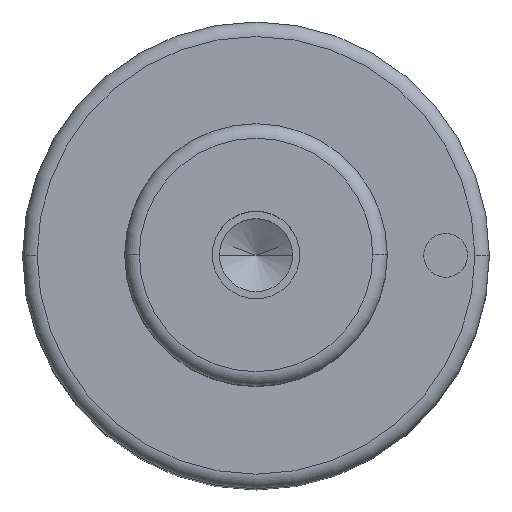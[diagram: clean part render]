
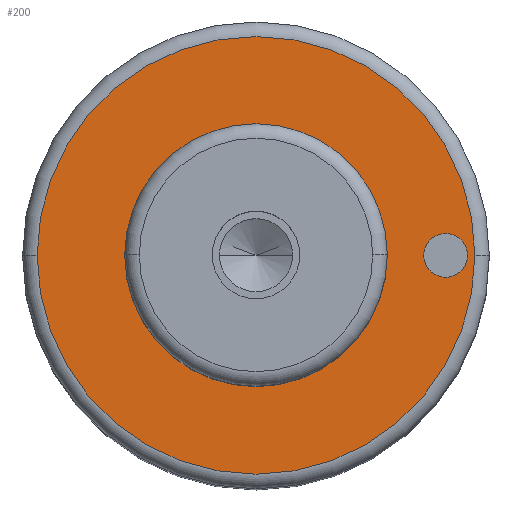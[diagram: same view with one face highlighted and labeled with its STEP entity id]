
A CAD part, top view. The second image highlights one B-rep face of the part: STEP entity #200.
In plain terms, the highlighted planar face has unit normal (0, 0, 1).
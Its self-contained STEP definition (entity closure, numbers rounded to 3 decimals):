
#99=PLANE('',#596);
#107=FACE_BOUND('',#265,.T.);
#108=FACE_BOUND('',#266,.T.);
#109=FACE_BOUND('',#267,.T.);
#200=ADVANCED_FACE('',(#107,#108,#109),#99,.T.);
#265=EDGE_LOOP('',(#359,#360));
#266=EDGE_LOOP('',(#361,#362));
#267=EDGE_LOOP('',(#363,#364));
#359=ORIENTED_EDGE('',*,*,#460,.F.);
#360=ORIENTED_EDGE('',*,*,#461,.F.);
#361=ORIENTED_EDGE('',*,*,#485,.F.);
#362=ORIENTED_EDGE('',*,*,#486,.F.);
#363=ORIENTED_EDGE('',*,*,#456,.T.);
#364=ORIENTED_EDGE('',*,*,#454,.T.);
#411=VERTEX_POINT('',#808);
#412=VERTEX_POINT('',#810);
#413=VERTEX_POINT('',#816);
#416=VERTEX_POINT('',#821);
#430=VERTEX_POINT('',#875);
#431=VERTEX_POINT('',#876);
#454=EDGE_CURVE('',#412,#411,#513,.T.);
#456=EDGE_CURVE('',#411,#412,#514,.T.);
#460=EDGE_CURVE('',#416,#413,#518,.T.);
#461=EDGE_CURVE('',#413,#416,#519,.T.);
#485=EDGE_CURVE('',#430,#431,#533,.T.);
#486=EDGE_CURVE('',#431,#430,#534,.T.);
#513=CIRCLE('',#558,9.);
#514=CIRCLE('',#560,9.);
#518=CIRCLE('',#565,15.);
#519=CIRCLE('',#567,15.);
#533=CIRCLE('',#594,1.5);
#534=CIRCLE('',#595,1.5);
#558=AXIS2_PLACEMENT_3D('',#809,#647,#648);
#560=AXIS2_PLACEMENT_3D('',#813,#652,#653);
#565=AXIS2_PLACEMENT_3D('',#822,#662,#663);
#567=AXIS2_PLACEMENT_3D('',#824,#666,#667);
#594=AXIS2_PLACEMENT_3D('',#874,#730,#731);
#595=AXIS2_PLACEMENT_3D('',#877,#732,#733);
#596=AXIS2_PLACEMENT_3D('',#878,#734,#735);
#647=DIRECTION('',(0.,0.,-1.));
#648=DIRECTION('',(0.,1.,0.));
#652=DIRECTION('',(0.,0.,-1.));
#653=DIRECTION('',(0.,-1.,0.));
#662=DIRECTION('',(0.,0.,-1.));
#663=DIRECTION('',(0.,1.,0.));
#666=DIRECTION('',(0.,0.,-1.));
#667=DIRECTION('',(0.,-1.,0.));
#730=DIRECTION('',(0.,0.,1.));
#731=DIRECTION('',(0.,1.,0.));
#732=DIRECTION('',(0.,0.,1.));
#733=DIRECTION('',(0.,-1.,0.));
#734=DIRECTION('',(0.,0.,1.));
#735=DIRECTION('',(0.,-1.,0.));
#808=CARTESIAN_POINT('',(-9.,0.,49.));
#809=CARTESIAN_POINT('',(0.,0.,49.));
#810=CARTESIAN_POINT('',(9.,0.,49.));
#813=CARTESIAN_POINT('',(0.,0.,49.));
#816=CARTESIAN_POINT('',(-15.,0.,49.));
#821=CARTESIAN_POINT('',(15.,0.,49.));
#822=CARTESIAN_POINT('',(0.,0.,49.));
#824=CARTESIAN_POINT('',(0.,0.,49.));
#874=CARTESIAN_POINT('',(13.,0.,49.));
#875=CARTESIAN_POINT('',(11.5,0.,49.));
#876=CARTESIAN_POINT('',(14.5,0.,49.));
#877=CARTESIAN_POINT('',(13.,0.,49.));
#878=CARTESIAN_POINT('',(0.,0.,49.));
